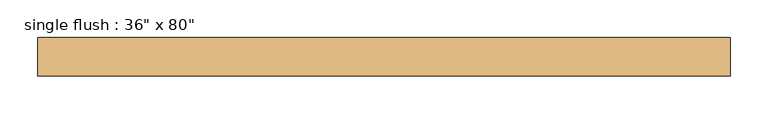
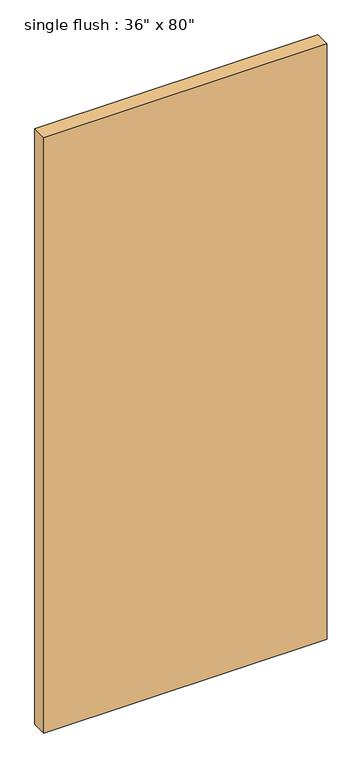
"""IFC4 building model written with IfcOpenShell, lengths in millimetres: door geometry."""

from ifc_helpers import new_model, si_unit, origin, origin_with_axes, place, context, project, spatial, polyline, outline, extrude, source, transform, mapped, element, save


def door_9e9d7cf9(model_context):
    return source(origin(), model_context, "Body", "SweptSolid", [
        extrude(outline(polyline([(457.2, 25.4), (-457.2, 25.4), (-457.2, 76.2), (457.2, 76.2), (457.2, 25.4)])), origin_with_axes(), (0.0, 0.0, 1.0), 2032.0),
    ])


if __name__ == "__main__":
    model = new_model("IFC4")
    model_context = context("Model", 3, world=origin())
    ifc_project = project(units=[si_unit("LENGTHUNIT", "METRE", prefix="MILLI")], contexts=[model_context])
    site = spatial("IfcSite", under=ifc_project)
    building = spatial("IfcBuilding", under=site)
    placement = place(None, origin())
    door_shape = door_9e9d7cf9(model_context)
    element("IfcDoor", 1, ObjectType="single flush : 36\" x 80\"", at=placement, inside=building, context=model_context, shape_type="MappedRepresentation", body=[
        mapped(door_shape, transform((0.0, 0.0, 0.0), x_axis=(1.0, 0.0, 0.0), y_axis=(0.0, 1.0, 0.0), z_axis=(0.0, 0.0, 1.0))),
    ])
    save(model, "model.ifc")
